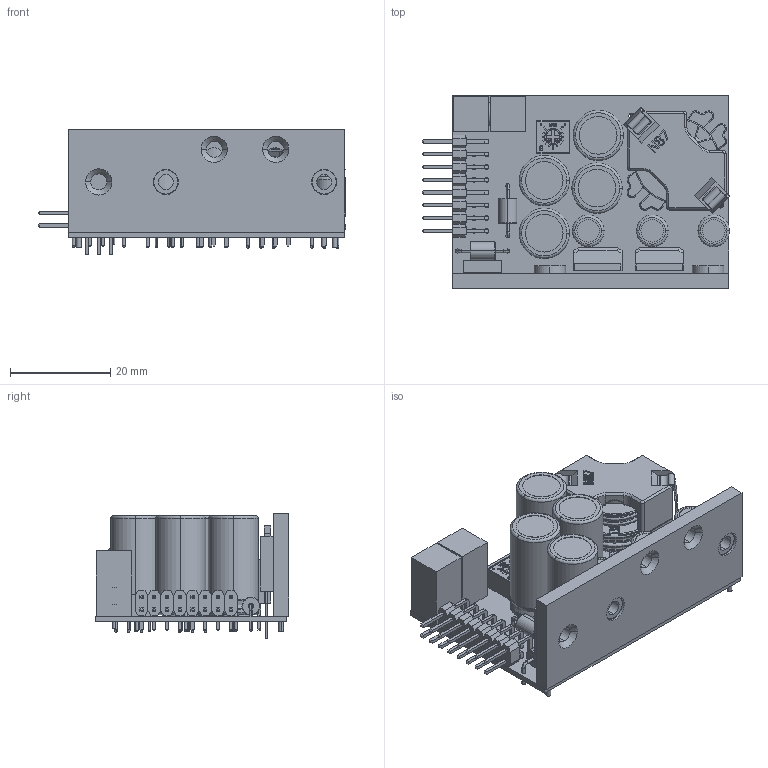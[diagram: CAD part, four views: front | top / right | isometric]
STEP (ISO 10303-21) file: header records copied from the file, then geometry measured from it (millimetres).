
FILE_DESCRIPTION (( 'STEP AP214' ), '1' );
FILE_NAME ('UcD400LP OEM 02xx.STEP', '2020-11-17T15:37:43', ( '' ), ( '' ), 'SwSTEP 2.0', 'SolidWorks 2017', '' );
FILE_SCHEMA (( 'AUTOMOTIVE_DESIGN' ));
Length unit declared in the file: millimetre
Products named in the file (45): __X2__043E0431043C043E0442043A0430__X0__; 6808475808; L2; T29; Extruded; __X2__0421043A043E04310430__X0__; C28; TO-220; ECAP_6.3x11_2.5; 5931228416; Con_2x8p_MH_2,54mm_PCB; Extruded_2; C25; T17; Extruded_3; Open CASCADE STEP translator 6.8 1.1.1; ecqv_7.5; __X2__042104350440043404350447043D0438043A__X0__; SAA6L2W0H3T2; C20; 5931227056; C18; C37; __X2__0424043E0440043C04380440043E0432043004420435043B044C__X0_____X2___043A0430044204430448043A0438__X0__; C14; __X2__043E0431043C043E0442043A0430__X0___6; C13; 5931227696; J2; L4; RM8; J1; BEAD_AX_3.6x5_10; L1; __X2__0421043A043E04310430__X0___MIR; T22; UcD400LP OEM 02xx; SW3dPS-3362P-1-102LF; C36; C35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
Assembly tree (59 placements, depth 4):
  UcD400LP OEM 02xx
    Board
      Open CASCADE STEP translator 6.8 1.1.1
    C20
      ecqv_7.5
    C38
      6808475808
        Extruded
    C37
      6808475808
        Extruded
    T29
      5931227056
        Extruded_2
      5931227696  x3
        Extruded_3
      5931228416  x4
        Extruded_4
    C36
      ECAP_10x20_5
    C35
      ECAP_10x20_5
    T22
      TO-220
    T17
      TO-220
    R56
      SW3dPS-3362P-1-102LF
    L4
      BEAD_AX_3.6x5_10
    L2
      RM8
        __X2__0424043E0440043C04380440043E0432043004420435043B044C__X0_____X2___043A0430044204430448043A0438__X0__
        __X2__042104350440043404350447043D0438043A__X0__  x2
        __X2__0421043A043E04310430__X0__
        __X2__0421043A043E04310430__X0___MIR
        __X2__043E0431043C043E0442043A0430__X0__
        __X2__043E0431043C043E0442043A0430__X0___6  x2
    L1
      BEAD_AX_3.6x5_10
    J2
      SAA6L2W0H3T2
    J1
      Con_2x8p_MH_2,54mm_PCB
    C28
      ECAP_10x20_5
    C25
      ECAP_6.3x11_2.5
    C18
      ECAP_6.3x11_2.5
    C14
      ECAP_6.3x11_2.5
    C13
      ECAP_10x20_5
Bounding box: 61.16 x 38.5 x 25 mm (x, y, z)
Volume: 19657.8 mm3; surface area: 21539.7 mm2
Topology: 36 solids, 295 shells, 2681 faces, 7603 edges, 5238 vertices
Faces by surface type: plane 1322, cylinder 773, bspline 488, cone 82, sphere 8, torus 8
Entity records: 100978 total; most frequent: CARTESIAN_POINT 28226, ORIENTED_EDGE 11078, DIRECTION 10690, EDGE_CURVE 6265, VERTEX_POINT 4474, LINE 3848, VECTOR 3848, AXIS2_PLACEMENT_3D 3421
